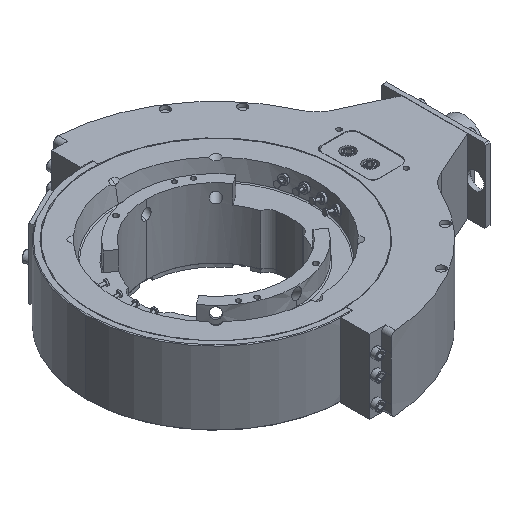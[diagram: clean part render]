
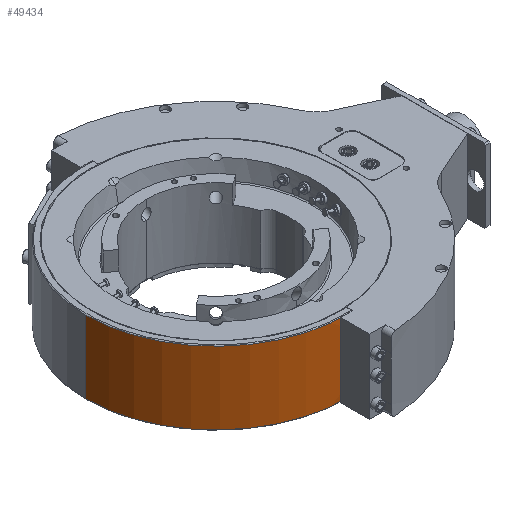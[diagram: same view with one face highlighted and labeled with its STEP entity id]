
A CAD part, isometric view. The second image highlights one B-rep face of the part: STEP entity #49434.
In plain terms, the highlighted cylindrical face has radius 47.371 mm (diameter 94.742 mm), a partial arc.
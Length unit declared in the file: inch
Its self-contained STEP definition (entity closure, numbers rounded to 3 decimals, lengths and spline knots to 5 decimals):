
#1895 = VECTOR ( 'NONE', #13273, 39.37008 ) ;
#2809 = VECTOR ( 'NONE', #64997, 39.37008 ) ;
#3514 = EDGE_LOOP ( 'NONE', ( #40109, #17187, #30590, #26871, #15722, #63183, #11974, #12666 ) ) ;
#3662 = AXIS2_PLACEMENT_3D ( 'NONE', #6814, #55690, #38221 ) ;
#3894 = EDGE_CURVE ( 'NONE', #77275, #45566, #15088, .T. ) ;
#3906 = EDGE_CURVE ( 'NONE', #47833, #77275, #19761, .T. ) ;
#4336 = VERTEX_POINT ( 'NONE', #11773 ) ;
#4609 = EDGE_CURVE ( 'NONE', #45566, #15819, #23465, .T. ) ;
#5530 = DIRECTION ( 'NONE',  ( 0., 0., -1. ) ) ;
#5799 = VECTOR ( 'NONE', #7264, 39.37008 ) ;
#5948 = LINE ( 'NONE', #20899, #69261 ) ;
#6814 = CARTESIAN_POINT ( 'NONE',  ( 0., 0., 1.06 ) ) ;
#7200 = CARTESIAN_POINT ( 'NONE',  ( -0.0512, -1.8643, 5.23052 ) ) ;
#7264 = DIRECTION ( 'NONE',  ( 0., 0., 1. ) ) ;
#11773 = CARTESIAN_POINT ( 'NONE',  ( -0.0512, -1.8643, 0.9375 ) ) ;
#11974 = ORIENTED_EDGE ( 'NONE', *, *, #74301, .F. ) ;
#12666 = ORIENTED_EDGE ( 'NONE', *, *, #24998, .T. ) ;
#13273 = DIRECTION ( 'NONE',  ( 0., 0., 1. ) ) ;
#15088 = LINE ( 'NONE', #59136, #2809 ) ;
#15722 = ORIENTED_EDGE ( 'NONE', *, *, #51467, .T. ) ;
#15733 = DIRECTION ( 'NONE',  ( 0., 0., 1. ) ) ;
#15819 = VERTEX_POINT ( 'NONE', #28719 ) ;
#17187 = ORIENTED_EDGE ( 'NONE', *, *, #3894, .T. ) ;
#18410 = CIRCLE ( 'NONE', #71574, 1.865 ) ;
#19761 = CIRCLE ( 'NONE', #30348, 1.865 ) ;
#20899 = CARTESIAN_POINT ( 'NONE',  ( 0.093, -1.86268, 1.06 ) ) ;
#23465 = CIRCLE ( 'NONE', #52702, 1.865 ) ;
#24998 = EDGE_CURVE ( 'NONE', #31536, #47833, #72881, .T. ) ;
#25748 = DIRECTION ( 'NONE',  ( -1., 0., 0. ) ) ;
#26871 = ORIENTED_EDGE ( 'NONE', *, *, #67539, .T. ) ;
#27062 = EDGE_CURVE ( 'NONE', #70813, #4336, #49978, .T. ) ;
#28344 = DIRECTION ( 'NONE',  ( -1., 0., 0. ) ) ;
#28719 = CARTESIAN_POINT ( 'NONE',  ( 0.093, -1.86268, 0.01 ) ) ;
#30348 = AXIS2_PLACEMENT_3D ( 'NONE', #40681, #5530, #71567 ) ;
#30590 = ORIENTED_EDGE ( 'NONE', *, *, #4609, .T. ) ;
#31280 = CARTESIAN_POINT ( 'NONE',  ( 0., 0., 0.1225 ) ) ;
#31536 = VERTEX_POINT ( 'NONE', #70248 ) ;
#32766 = DIRECTION ( 'NONE',  ( 0., 0., 1. ) ) ;
#33469 = AXIS2_PLACEMENT_3D ( 'NONE', #43865, #74230, #73977 ) ;
#38221 = DIRECTION ( 'NONE',  ( -1., 0., 0. ) ) ;
#39379 = CARTESIAN_POINT ( 'NONE',  ( -1.865, 0., 1.05 ) ) ;
#40109 = ORIENTED_EDGE ( 'NONE', *, *, #3906, .T. ) ;
#40681 = CARTESIAN_POINT ( 'NONE',  ( 0., 0., 1.05 ) ) ;
#43865 = CARTESIAN_POINT ( 'NONE',  ( 0., 0., 0.9375 ) ) ;
#45566 = VERTEX_POINT ( 'NONE', #74975 ) ;
#45812 = CIRCLE ( 'NONE', #33469, 1.865 ) ;
#46335 = CARTESIAN_POINT ( 'NONE',  ( 0.093, -1.86268, 0.1225 ) ) ;
#47833 = VERTEX_POINT ( 'NONE', #62703 ) ;
#48468 = CARTESIAN_POINT ( 'NONE',  ( 0.093, -1.86268, 1.06 ) ) ;
#49434 = ADVANCED_FACE ( 'NONE', ( #70588 ), #54496, .T. ) ;
#49978 = LINE ( 'NONE', #7200, #1895 ) ;
#51467 = EDGE_CURVE ( 'NONE', #63472, #70813, #18410, .T. ) ;
#52702 = AXIS2_PLACEMENT_3D ( 'NONE', #64584, #15733, #28344 ) ;
#54496 = CYLINDRICAL_SURFACE ( 'NONE', #3662, 1.865 ) ;
#55690 = DIRECTION ( 'NONE',  ( 0., 0., -1. ) ) ;
#59136 = CARTESIAN_POINT ( 'NONE',  ( -1.865, 0., 1.06 ) ) ;
#61676 = DIRECTION ( 'NONE',  ( 0., 0., -1. ) ) ;
#62703 = CARTESIAN_POINT ( 'NONE',  ( 0.093, -1.86268, 1.05 ) ) ;
#63183 = ORIENTED_EDGE ( 'NONE', *, *, #27062, .T. ) ;
#63472 = VERTEX_POINT ( 'NONE', #46335 ) ;
#64584 = CARTESIAN_POINT ( 'NONE',  ( 0., 0., 0.01 ) ) ;
#64997 = DIRECTION ( 'NONE',  ( 0., 0., -1. ) ) ;
#67539 = EDGE_CURVE ( 'NONE', #15819, #63472, #5948, .T. ) ;
#69261 = VECTOR ( 'NONE', #32766, 39.37008 ) ;
#70248 = CARTESIAN_POINT ( 'NONE',  ( 0.093, -1.86268, 0.9375 ) ) ;
#70588 = FACE_OUTER_BOUND ( 'NONE', #3514, .T. ) ;
#70813 = VERTEX_POINT ( 'NONE', #73938 ) ;
#71567 = DIRECTION ( 'NONE',  ( -1., 0., 0. ) ) ;
#71574 = AXIS2_PLACEMENT_3D ( 'NONE', #31280, #61676, #25748 ) ;
#72881 = LINE ( 'NONE', #48468, #5799 ) ;
#73938 = CARTESIAN_POINT ( 'NONE',  ( -0.0512, -1.8643, 0.1225 ) ) ;
#73977 = DIRECTION ( 'NONE',  ( -1., 0., 0. ) ) ;
#74230 = DIRECTION ( 'NONE',  ( 0., 0., -1. ) ) ;
#74301 = EDGE_CURVE ( 'NONE', #31536, #4336, #45812, .T. ) ;
#74975 = CARTESIAN_POINT ( 'NONE',  ( -1.865, 0., 0.01 ) ) ;
#77275 = VERTEX_POINT ( 'NONE', #39379 ) ;
